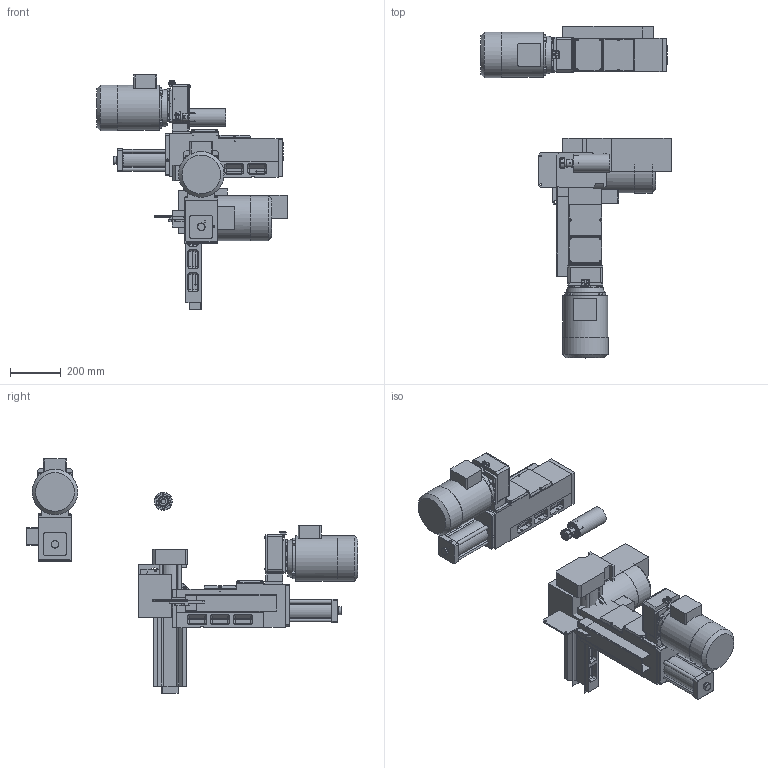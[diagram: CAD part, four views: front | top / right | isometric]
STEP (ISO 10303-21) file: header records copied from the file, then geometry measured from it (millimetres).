
FILE_DESCRIPTION( ( 'STEP AP203' ), '1' );
FILE_NAME( 'C:/Documents and Settings/Saverio/Desktop/disegni ironcad/unità serie 2/F218 (ex F222)/F 218_A02_P.stp', '2013-12-10T17:16:00', ( ' ' ), ( ' ' ), 'XStep 1.0', ' ', ' ' );
FILE_SCHEMA( ( 'CONFIG_CONTROL_DESIGN' ) );
Length unit declared in the file: metre
Products named in the file (42): Assem1; Assem2; Assem3; 1; 2; 3; 4; 5; 6; 7; 8; 9; 10; 11; 12; 13; 14; 15; 16; 17; 18; 19; 20; 21; 22; 23; 24; 25; 26; 27; 28; 29; 30; 31; 32; 33; 34; 35; 36; 37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
Bounding box: 746.57 x 1302.73 x 919.21 mm (x, y, z)
Volume: 48336245.8 mm3; surface area: 4355000.8 mm2
Topology: 117 solids, 117 shells, 3114 faces, 7245 edges, 4392 vertices
Faces by surface type: plane 1692, cylinder 819, cone 405, bspline 108, sphere 60, torus 30
Full cylindrical faces by diameter (mm): 5 x45, 5.5 x21, 6 x6, 6.5 x18, 6.637 x15, 6.647 x12, 8.385 x3, 8.5 x36, 8.75 x18, 10.25 x6, 18 x12, 20 x3, 20.5 x3, 24 x3, 27.5 x3, 30 x12, 30.5 x3, 31.2 x3, 42 x3, 52 x3, 53 x3, 54 x6, 70 x6, 76 x3, 80 x9, 95 x3, 177.21 x3, 179 x3
Entity records: 31971 total; most frequent: CARTESIAN_POINT 7973, DIRECTION 4603, ORIENTED_EDGE 4206, EDGE_CURVE 2103, AXIS2_PLACEMENT_3D 1693, VERTEX_POINT 1411, EDGE_LOOP 1354, LINE 1217
